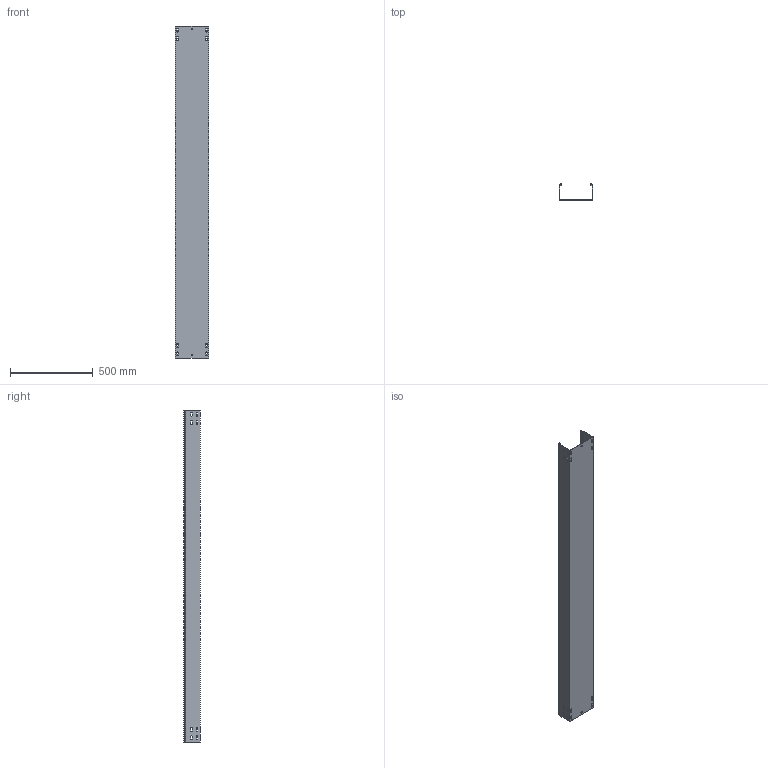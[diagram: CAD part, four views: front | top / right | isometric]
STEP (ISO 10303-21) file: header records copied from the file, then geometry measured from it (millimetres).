
FILE_DESCRIPTION (( 'STEP AP203' ), '1' );
FILE_NAME ('CLN10-100-200-200-2 Ëîòîê íåïåðôîðèðîâàííûé ESCA 100õ200õ2000-2,0 IEK.STEP', '2021-10-03T11:59:02', ( '' ), ( '' ), 'SwSTEP 2.0', 'SolidWorks 2017', '' );
FILE_SCHEMA (( 'CONFIG_CONTROL_DESIGN' ));
Length unit declared in the file: millimetre
Products named in the file (1): CLN10-100-200-200-2 Ëîòîê íåïåðôîðèðîâàííûé ESCA 100õ200õ2000-2,0 IEK
Bounding box: 200 x 99.97 x 2000 mm (x, y, z)
Volume: 1766131.5 mm3; surface area: 1636635.1 mm2
Topology: 1 solids, 1 shells, 172 faces, 510 edges, 340 vertices
Faces by surface type: plane 92, cylinder 80
Entity records: 5975 total; most frequent: CARTESIAN_POINT 1023, ORIENTED_EDGE 1020, DIRECTION 1016, EDGE_CURVE 510, VECTOR 350, LINE 350, VERTEX_POINT 340, AXIS2_PLACEMENT_3D 333
